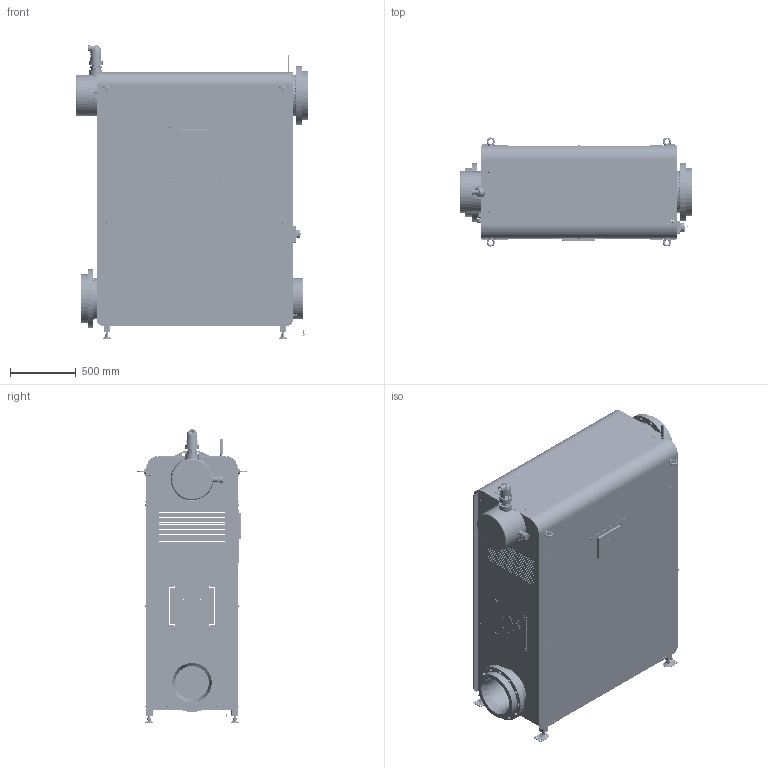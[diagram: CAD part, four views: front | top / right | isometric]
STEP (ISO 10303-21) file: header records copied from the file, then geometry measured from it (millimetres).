
FILE_DESCRIPTION(/* description */ (''),/* implementation_level */ '2;1');
FILE_NAME(/* name */ 'H Pro 300-400_Simplifier_1.stp',/* time_stamp */ '2023-11-08T17:03:15+01:00',/* author */ ('MassimoMaselli'),/* organization */ (''),/* preprocessor_version */ 'ST-DEVELOPER v20',/* originating_system */ 'Autodesk Inventor 2024',/* authorisation */ '');
FILE_SCHEMA (('AUTOMOTIVE_DESIGN { 1 0 10303 214 3 1 1 }'));
Products named in the file (1): H Pro 300-400_Simplifier_1
Bounding box: 1773 x 830 x 2238.4 mm (x, y, z)
Volume: 119005275.2 mm3; surface area: 32692282.4 mm2
Topology: 151 solids, 160 shells, 8602 faces, 21956 edges, 14433 vertices
Faces by surface type: plane 4687, bspline 1625, cylinder 1509, cone 477, torus 262, sphere 42
Full cylindrical faces by diameter (mm): 0.3 x1, 0.4 x1, 0.88 x2, 0.9 x2, 1.92 x4, 3 x4, 3.2 x6, 3.242 x2, 3.251 x1, 3.3 x4, 3.5 x2, 4 x83, 4.134 x47, 4.2 x2, 4.3 x2, 4.55 x2, 4.56 x2, 4.826 x1, 5 x73, 5.3 x2, 5.35 x4, 5.486 x12, 5.5 x2, 5.66 x4, 5.8 x1, 6 x72, 6.198 x1, 6.25 x8, 6.38 x2, 6.424 x6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
Entity records: 333533 total; most frequent: CARTESIAN_POINT 124470, ORIENTED_EDGE 43720, DIRECTION 35928, EDGE_CURVE 21865, VERTEX_POINT 14433, LINE 13206, VECTOR 13206, AXIS2_PLACEMENT_3D 11361
